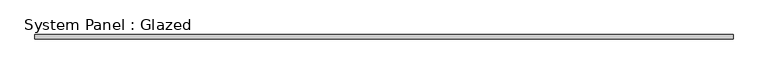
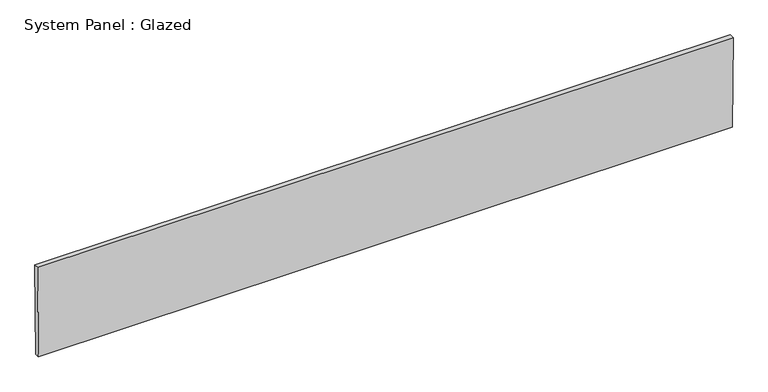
"""IFC4 building model written with IfcOpenShell, lengths in millimetres: plate geometry, System Panel : Glazed."""

from ifc_helpers import new_model, si_unit, frame, origin, place, context, project, spatial, polyline, outline, extrude, source, transform, mapped, element, save


def system_panel_glazed_955ccf0d(model_context):
    return source(origin(), model_context, "Body", "SweptSolid", [
        extrude(outline(polyline([(0.0, -1943.3201376), (0.0, 1943.3201376), (530.6712495, 1947.2837723), (530.6712495, -1947.2837723), (0.0, -1943.3201376)])), frame((0.0, 19.05, 0.0), z_axis=(0.0, 1.0, 0.0), x_axis=(0.0, 0.0, 1.0)), (0.0, 0.0, 1.0), 25.4),
    ])


if __name__ == "__main__":
    model = new_model("IFC4")
    model_context = context("Model", 3, world=origin())
    ifc_project = project(units=[si_unit("LENGTHUNIT", "METRE", prefix="MILLI")], contexts=[model_context])
    site = spatial("IfcSite", under=ifc_project)
    building = spatial("IfcBuilding", under=site)
    placement = place(None, origin())
    system_panel_glazed_shape = system_panel_glazed_955ccf0d(model_context)
    element("IfcPlate", 1, ObjectType="System Panel : Glazed", at=placement, inside=building, context=model_context, shape_type="MappedRepresentation", body=[
        mapped(system_panel_glazed_shape, transform((0.0, 0.0, 0.0), x_axis=(1.0, 0.0, 0.0), y_axis=(0.0, 1.0, 0.0), z_axis=(0.0, 0.0, 1.0))),
    ])
    save(model, "model.ifc")
